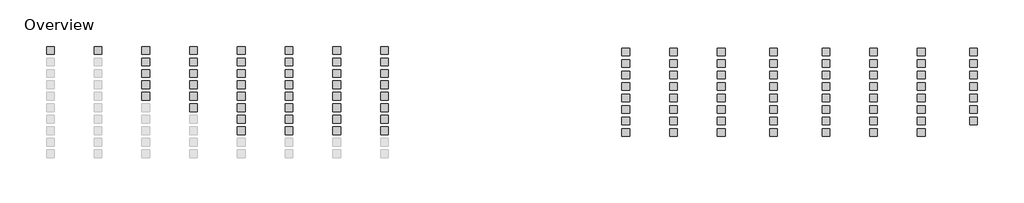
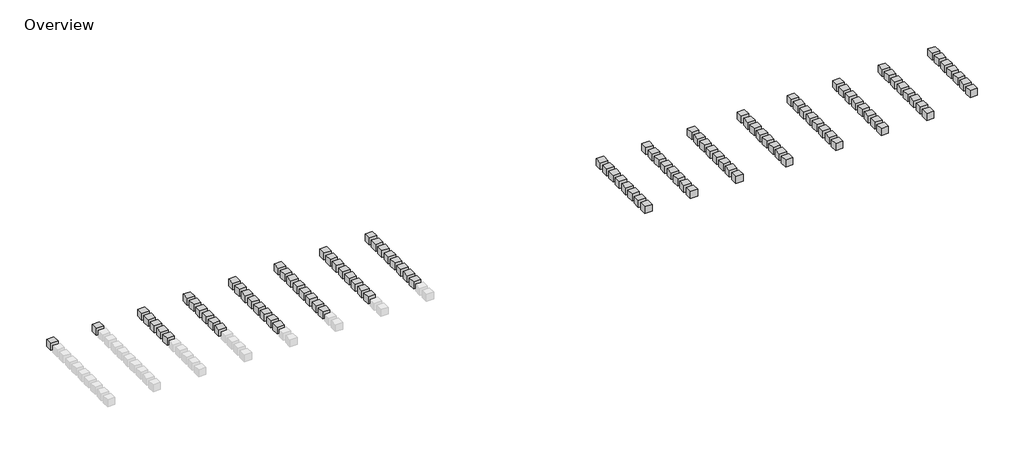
# One storey, part 5 of 5: 108 proxies.
"""IFC4 building model written with IfcOpenShell, lengths in millimetres."""

from ifc_helpers import new_model, si_unit, origin, place, context, project, spatial, transform, mapped, element, save
from components import material_box_material_box_61bd0c43

model = new_model("IFC4")

# Units and contexts
model_context = context("Model", 3, world=origin())
ifc_project = project(units=[si_unit("LENGTHUNIT", "METRE", prefix="MILLI")], contexts=[model_context])

# Site, building, storey
site = spatial("IfcSite", under=ifc_project)
building = spatial("IfcBuilding", under=site)
storey = spatial("IfcBuildingStorey", under=building, Name="Overview", Elevation=0.0)

# Proxies
placement = place(None, origin())
material_box_material_box_shape = material_box_material_box_61bd0c43(model_context)
element("IfcBuildingElementProxy", 1, Name="Material Box : Material Box", ObjectType="Material Box : Material Box", at=placement, inside=storey, context=model_context, shape_type="MappedRepresentation", body=[
    mapped(material_box_material_box_shape, transform((42676.0828924, 8962.6360947, 0.0), x_axis=(1.0, 0.0, 0.0), y_axis=(0.0, 1.0, 0.0), z_axis=(0.0, 0.0, 1.0))),
])
element("IfcBuildingElementProxy", 2, Name="Material Box : Material Box", ObjectType="Material Box : Material Box", at=placement, inside=storey, context=model_context, shape_type="MappedRepresentation", body=[
    mapped(material_box_material_box_shape, transform((42676.0828924, 7819.6360947, 0.0), x_axis=(1.0, 0.0, 0.0), y_axis=(0.0, 1.0, 0.0), z_axis=(0.0, 0.0, 1.0))),
])
element("IfcBuildingElementProxy", 3, Name="Material Box : Material Box", ObjectType="Material Box : Material Box", at=placement, inside=storey, context=model_context, shape_type="MappedRepresentation", body=[
    mapped(material_box_material_box_shape, transform((42676.0828924, 6676.6360947, 0.0), x_axis=(1.0, 0.0, 0.0), y_axis=(0.0, 1.0, 0.0), z_axis=(0.0, 0.0, 1.0))),
])
element("IfcBuildingElementProxy", 4, Name="Material Box : Material Box", ObjectType="Material Box : Material Box", at=placement, inside=storey, context=model_context, shape_type="MappedRepresentation", body=[
    mapped(material_box_material_box_shape, transform((42676.0828924, 5533.6360947, 0.0), x_axis=(1.0, 0.0, 0.0), y_axis=(0.0, 1.0, 0.0), z_axis=(0.0, 0.0, 1.0))),
])
element("IfcBuildingElementProxy", 5, Name="Material Box : Material Box", ObjectType="Material Box : Material Box", at=placement, inside=storey, context=model_context, shape_type="MappedRepresentation", body=[
    mapped(material_box_material_box_shape, transform((47425.8828924, 8962.6360947, 0.0), x_axis=(1.0, 0.0, 0.0), y_axis=(0.0, 1.0, 0.0), z_axis=(0.0, 0.0, 1.0))),
])
element("IfcBuildingElementProxy", 6, Name="Material Box : Material Box", ObjectType="Material Box : Material Box", at=placement, inside=storey, context=model_context, shape_type="MappedRepresentation", body=[
    mapped(material_box_material_box_shape, transform((47425.8828924, 7819.6360947, 0.0), x_axis=(1.0, 0.0, 0.0), y_axis=(0.0, 1.0, 0.0), z_axis=(0.0, 0.0, 1.0))),
])
element("IfcBuildingElementProxy", 7, Name="Material Box : Material Box", ObjectType="Material Box : Material Box", at=placement, inside=storey, context=model_context, shape_type="MappedRepresentation", body=[
    mapped(material_box_material_box_shape, transform((47425.8828924, 6676.6360947, 0.0), x_axis=(1.0, 0.0, 0.0), y_axis=(0.0, 1.0, 0.0), z_axis=(0.0, 0.0, 1.0))),
])
element("IfcBuildingElementProxy", 8, Name="Material Box : Material Box", ObjectType="Material Box : Material Box", at=placement, inside=storey, context=model_context, shape_type="MappedRepresentation", body=[
    mapped(material_box_material_box_shape, transform((47425.8828924, 5533.6360947, 0.0), x_axis=(1.0, 0.0, 0.0), y_axis=(0.0, 1.0, 0.0), z_axis=(0.0, 0.0, 1.0))),
])
element("IfcBuildingElementProxy", 9, Name="Material Box : Material Box", ObjectType="Material Box : Material Box", at=placement, inside=storey, context=model_context, shape_type="MappedRepresentation", body=[
    mapped(material_box_material_box_shape, transform((42676.0828924, 4390.6360947, 0.0), x_axis=(1.0, 0.0, 0.0), y_axis=(0.0, 1.0, 0.0), z_axis=(0.0, 0.0, 1.0))),
])
element("IfcBuildingElementProxy", 10, Name="Material Box : Material Box", ObjectType="Material Box : Material Box", at=placement, inside=storey, context=model_context, shape_type="MappedRepresentation", body=[
    mapped(material_box_material_box_shape, transform((-14601.1030029, 9124.2048122, 0.0), x_axis=(1.0, 0.0, 0.0), y_axis=(0.0, 1.0, 0.0), z_axis=(0.0, 0.0, 1.0))),
])
element("IfcBuildingElementProxy", 11, Name="Material Box : Material Box", ObjectType="Material Box : Material Box", at=placement, inside=storey, context=model_context, shape_type="MappedRepresentation", body=[
    mapped(material_box_material_box_shape, transform((-9851.3030029, 9124.2048122, 0.0), x_axis=(1.0, 0.0, 0.0), y_axis=(0.0, 1.0, 0.0), z_axis=(0.0, 0.0, 1.0))),
])
element("IfcBuildingElementProxy", 12, Name="Material Box : Material Box", ObjectType="Material Box : Material Box", at=placement, inside=storey, context=model_context, shape_type="MappedRepresentation", body=[
    mapped(material_box_material_box_shape, transform((-5101.5030029, 9124.2048122, 0.0), x_axis=(1.0, 0.0, 0.0), y_axis=(0.0, 1.0, 0.0), z_axis=(0.0, 0.0, 1.0))),
])
element("IfcBuildingElementProxy", 13, Name="Material Box : Material Box", ObjectType="Material Box : Material Box", at=placement, inside=storey, context=model_context, shape_type="MappedRepresentation", body=[
    mapped(material_box_material_box_shape, transform((-5101.5030029, 7981.2048122, 0.0), x_axis=(1.0, 0.0, 0.0), y_axis=(0.0, 1.0, 0.0), z_axis=(0.0, 0.0, 1.0))),
])
element("IfcBuildingElementProxy", 14, Name="Material Box : Material Box", ObjectType="Material Box : Material Box", at=placement, inside=storey, context=model_context, shape_type="MappedRepresentation", body=[
    mapped(material_box_material_box_shape, transform((-5101.5030029, 6838.2048122, 0.0), x_axis=(1.0, 0.0, 0.0), y_axis=(0.0, 1.0, 0.0), z_axis=(0.0, 0.0, 1.0))),
])
element("IfcBuildingElementProxy", 15, Name="Material Box : Material Box", ObjectType="Material Box : Material Box", at=placement, inside=storey, context=model_context, shape_type="MappedRepresentation", body=[
    mapped(material_box_material_box_shape, transform((-5101.5030029, 5695.2048122, 0.0), x_axis=(1.0, 0.0, 0.0), y_axis=(0.0, 1.0, 0.0), z_axis=(0.0, 0.0, 1.0))),
])
element("IfcBuildingElementProxy", 16, Name="Material Box : Material Box", ObjectType="Material Box : Material Box", at=placement, inside=storey, context=model_context, shape_type="MappedRepresentation", body=[
    mapped(material_box_material_box_shape, transform((-5101.5030029, 4552.2048122, 0.0), x_axis=(1.0, 0.0, 0.0), y_axis=(0.0, 1.0, 0.0), z_axis=(0.0, 0.0, 1.0))),
])
element("IfcBuildingElementProxy", 17, Name="Material Box : Material Box", ObjectType="Material Box : Material Box", at=placement, inside=storey, context=model_context, shape_type="MappedRepresentation", body=[
    mapped(material_box_material_box_shape, transform((-351.7030029, 3409.2048122, 0.0), x_axis=(1.0, 0.0, 0.0), y_axis=(0.0, 1.0, 0.0), z_axis=(0.0, 0.0, 1.0))),
])
element("IfcBuildingElementProxy", 18, Name="Material Box : Material Box", ObjectType="Material Box : Material Box", at=placement, inside=storey, context=model_context, shape_type="MappedRepresentation", body=[
    mapped(material_box_material_box_shape, transform((-351.7030029, 9124.2048122, 0.0), x_axis=(1.0, 0.0, 0.0), y_axis=(0.0, 1.0, 0.0), z_axis=(0.0, 0.0, 1.0))),
])
element("IfcBuildingElementProxy", 19, Name="Material Box : Material Box", ObjectType="Material Box : Material Box", at=placement, inside=storey, context=model_context, shape_type="MappedRepresentation", body=[
    mapped(material_box_material_box_shape, transform((-351.7030029, 7981.2048122, 0.0), x_axis=(1.0, 0.0, 0.0), y_axis=(0.0, 1.0, 0.0), z_axis=(0.0, 0.0, 1.0))),
])
element("IfcBuildingElementProxy", 20, Name="Material Box : Material Box", ObjectType="Material Box : Material Box", at=placement, inside=storey, context=model_context, shape_type="MappedRepresentation", body=[
    mapped(material_box_material_box_shape, transform((-351.7030029, 6838.2048122, 0.0), x_axis=(1.0, 0.0, 0.0), y_axis=(0.0, 1.0, 0.0), z_axis=(0.0, 0.0, 1.0))),
])
element("IfcBuildingElementProxy", 21, Name="Material Box : Material Box", ObjectType="Material Box : Material Box", at=placement, inside=storey, context=model_context, shape_type="MappedRepresentation", body=[
    mapped(material_box_material_box_shape, transform((-351.7030029, 5695.2048122, 0.0), x_axis=(1.0, 0.0, 0.0), y_axis=(0.0, 1.0, 0.0), z_axis=(0.0, 0.0, 1.0))),
])
element("IfcBuildingElementProxy", 22, Name="Material Box : Material Box", ObjectType="Material Box : Material Box", at=placement, inside=storey, context=model_context, shape_type="MappedRepresentation", body=[
    mapped(material_box_material_box_shape, transform((-351.7030029, 4552.2048122, 0.0), x_axis=(1.0, 0.0, 0.0), y_axis=(0.0, 1.0, 0.0), z_axis=(0.0, 0.0, 1.0))),
])
element("IfcBuildingElementProxy", 23, Name="Material Box : Material Box", ObjectType="Material Box : Material Box", at=placement, inside=storey, context=model_context, shape_type="MappedRepresentation", body=[
    mapped(material_box_material_box_shape, transform((4398.0969971, 9124.2048122, 0.0), x_axis=(1.0, 0.0, 0.0), y_axis=(0.0, 1.0, 0.0), z_axis=(0.0, 0.0, 1.0))),
])
element("IfcBuildingElementProxy", 24, Name="Material Box : Material Box", ObjectType="Material Box : Material Box", at=placement, inside=storey, context=model_context, shape_type="MappedRepresentation", body=[
    mapped(material_box_material_box_shape, transform((4398.0969971, 7981.2048122, 0.0), x_axis=(1.0, 0.0, 0.0), y_axis=(0.0, 1.0, 0.0), z_axis=(0.0, 0.0, 1.0))),
])
element("IfcBuildingElementProxy", 25, Name="Material Box : Material Box", ObjectType="Material Box : Material Box", at=placement, inside=storey, context=model_context, shape_type="MappedRepresentation", body=[
    mapped(material_box_material_box_shape, transform((4398.0969971, 6838.2048122, 0.0), x_axis=(1.0, 0.0, 0.0), y_axis=(0.0, 1.0, 0.0), z_axis=(0.0, 0.0, 1.0))),
])
element("IfcBuildingElementProxy", 26, Name="Material Box : Material Box", ObjectType="Material Box : Material Box", at=placement, inside=storey, context=model_context, shape_type="MappedRepresentation", body=[
    mapped(material_box_material_box_shape, transform((4398.0969971, 5695.2048122, 0.0), x_axis=(1.0, 0.0, 0.0), y_axis=(0.0, 1.0, 0.0), z_axis=(0.0, 0.0, 1.0))),
])
element("IfcBuildingElementProxy", 27, Name="Material Box : Material Box", ObjectType="Material Box : Material Box", at=placement, inside=storey, context=model_context, shape_type="MappedRepresentation", body=[
    mapped(material_box_material_box_shape, transform((4398.0969971, 4552.2048122, 0.0), x_axis=(1.0, 0.0, 0.0), y_axis=(0.0, 1.0, 0.0), z_axis=(0.0, 0.0, 1.0))),
])
element("IfcBuildingElementProxy", 28, Name="Material Box : Material Box", ObjectType="Material Box : Material Box", at=placement, inside=storey, context=model_context, shape_type="MappedRepresentation", body=[
    mapped(material_box_material_box_shape, transform((4398.0969971, 3409.2048122, 0.0), x_axis=(1.0, 0.0, 0.0), y_axis=(0.0, 1.0, 0.0), z_axis=(0.0, 0.0, 1.0))),
])
element("IfcBuildingElementProxy", 29, Name="Material Box : Material Box", ObjectType="Material Box : Material Box", at=placement, inside=storey, context=model_context, shape_type="MappedRepresentation", body=[
    mapped(material_box_material_box_shape, transform((4398.0969971, 2266.2048122, 0.0), x_axis=(1.0, 0.0, 0.0), y_axis=(0.0, 1.0, 0.0), z_axis=(0.0, 0.0, 1.0))),
])
element("IfcBuildingElementProxy", 30, Name="Material Box : Material Box", ObjectType="Material Box : Material Box", at=placement, inside=storey, context=model_context, shape_type="MappedRepresentation", body=[
    mapped(material_box_material_box_shape, transform((4398.0969971, 1123.2048122, 0.0), x_axis=(1.0, 0.0, 0.0), y_axis=(0.0, 1.0, 0.0), z_axis=(0.0, 0.0, 1.0))),
])
element("IfcBuildingElementProxy", 31, Name="Material Box : Material Box", ObjectType="Material Box : Material Box", at=placement, inside=storey, context=model_context, shape_type="MappedRepresentation", body=[
    mapped(material_box_material_box_shape, transform((9147.8969971, 9124.2048122, 0.0), x_axis=(1.0, 0.0, 0.0), y_axis=(0.0, 1.0, 0.0), z_axis=(0.0, 0.0, 1.0))),
])
element("IfcBuildingElementProxy", 32, Name="Material Box : Material Box", ObjectType="Material Box : Material Box", at=placement, inside=storey, context=model_context, shape_type="MappedRepresentation", body=[
    mapped(material_box_material_box_shape, transform((9147.8969971, 7981.2048122, 0.0), x_axis=(1.0, 0.0, 0.0), y_axis=(0.0, 1.0, 0.0), z_axis=(0.0, 0.0, 1.0))),
])
element("IfcBuildingElementProxy", 33, Name="Material Box : Material Box", ObjectType="Material Box : Material Box", at=placement, inside=storey, context=model_context, shape_type="MappedRepresentation", body=[
    mapped(material_box_material_box_shape, transform((9147.8969971, 6838.2048122, 0.0), x_axis=(1.0, 0.0, 0.0), y_axis=(0.0, 1.0, 0.0), z_axis=(0.0, 0.0, 1.0))),
])
element("IfcBuildingElementProxy", 34, Name="Material Box : Material Box", ObjectType="Material Box : Material Box", at=placement, inside=storey, context=model_context, shape_type="MappedRepresentation", body=[
    mapped(material_box_material_box_shape, transform((9147.8969971, 5695.2048122, 0.0), x_axis=(1.0, 0.0, 0.0), y_axis=(0.0, 1.0, 0.0), z_axis=(0.0, 0.0, 1.0))),
])
element("IfcBuildingElementProxy", 35, Name="Material Box : Material Box", ObjectType="Material Box : Material Box", at=placement, inside=storey, context=model_context, shape_type="MappedRepresentation", body=[
    mapped(material_box_material_box_shape, transform((9147.8969971, 4552.2048122, 0.0), x_axis=(1.0, 0.0, 0.0), y_axis=(0.0, 1.0, 0.0), z_axis=(0.0, 0.0, 1.0))),
])
element("IfcBuildingElementProxy", 36, Name="Material Box : Material Box", ObjectType="Material Box : Material Box", at=placement, inside=storey, context=model_context, shape_type="MappedRepresentation", body=[
    mapped(material_box_material_box_shape, transform((9147.8969971, 3409.2048122, 0.0), x_axis=(1.0, 0.0, 0.0), y_axis=(0.0, 1.0, 0.0), z_axis=(0.0, 0.0, 1.0))),
])
element("IfcBuildingElementProxy", 37, Name="Material Box : Material Box", ObjectType="Material Box : Material Box", at=placement, inside=storey, context=model_context, shape_type="MappedRepresentation", body=[
    mapped(material_box_material_box_shape, transform((9147.8969971, 2266.2048122, 0.0), x_axis=(1.0, 0.0, 0.0), y_axis=(0.0, 1.0, 0.0), z_axis=(0.0, 0.0, 1.0))),
])
element("IfcBuildingElementProxy", 38, Name="Material Box : Material Box", ObjectType="Material Box : Material Box", at=placement, inside=storey, context=model_context, shape_type="MappedRepresentation", body=[
    mapped(material_box_material_box_shape, transform((9147.8969971, 1123.2048122, 0.0), x_axis=(1.0, 0.0, 0.0), y_axis=(0.0, 1.0, 0.0), z_axis=(0.0, 0.0, 1.0))),
])
element("IfcBuildingElementProxy", 39, Name="Material Box : Material Box", ObjectType="Material Box : Material Box", at=placement, inside=storey, context=model_context, shape_type="MappedRepresentation", body=[
    mapped(material_box_material_box_shape, transform((13897.6969971, 9124.2048122, 0.0), x_axis=(1.0, 0.0, 0.0), y_axis=(0.0, 1.0, 0.0), z_axis=(0.0, 0.0, 1.0))),
])
element("IfcBuildingElementProxy", 40, Name="Material Box : Material Box", ObjectType="Material Box : Material Box", at=placement, inside=storey, context=model_context, shape_type="MappedRepresentation", body=[
    mapped(material_box_material_box_shape, transform((13897.6969971, 7981.2048122, 0.0), x_axis=(1.0, 0.0, 0.0), y_axis=(0.0, 1.0, 0.0), z_axis=(0.0, 0.0, 1.0))),
])
element("IfcBuildingElementProxy", 41, Name="Material Box : Material Box", ObjectType="Material Box : Material Box", at=placement, inside=storey, context=model_context, shape_type="MappedRepresentation", body=[
    mapped(material_box_material_box_shape, transform((13897.6969971, 6838.2048122, 0.0), x_axis=(1.0, 0.0, 0.0), y_axis=(0.0, 1.0, 0.0), z_axis=(0.0, 0.0, 1.0))),
])
element("IfcBuildingElementProxy", 42, Name="Material Box : Material Box", ObjectType="Material Box : Material Box", at=placement, inside=storey, context=model_context, shape_type="MappedRepresentation", body=[
    mapped(material_box_material_box_shape, transform((13897.6969971, 5695.2048122, 0.0), x_axis=(1.0, 0.0, 0.0), y_axis=(0.0, 1.0, 0.0), z_axis=(0.0, 0.0, 1.0))),
])
element("IfcBuildingElementProxy", 43, Name="Material Box : Material Box", ObjectType="Material Box : Material Box", at=placement, inside=storey, context=model_context, shape_type="MappedRepresentation", body=[
    mapped(material_box_material_box_shape, transform((13897.6969971, 4552.2048122, 0.0), x_axis=(1.0, 0.0, 0.0), y_axis=(0.0, 1.0, 0.0), z_axis=(0.0, 0.0, 1.0))),
])
element("IfcBuildingElementProxy", 44, Name="Material Box : Material Box", ObjectType="Material Box : Material Box", at=placement, inside=storey, context=model_context, shape_type="MappedRepresentation", body=[
    mapped(material_box_material_box_shape, transform((13897.6969971, 3409.2048122, 0.0), x_axis=(1.0, 0.0, 0.0), y_axis=(0.0, 1.0, 0.0), z_axis=(0.0, 0.0, 1.0))),
])
element("IfcBuildingElementProxy", 45, Name="Material Box : Material Box", ObjectType="Material Box : Material Box", at=placement, inside=storey, context=model_context, shape_type="MappedRepresentation", body=[
    mapped(material_box_material_box_shape, transform((13897.6969971, 2266.2048122, 0.0), x_axis=(1.0, 0.0, 0.0), y_axis=(0.0, 1.0, 0.0), z_axis=(0.0, 0.0, 1.0))),
])
element("IfcBuildingElementProxy", 46, Name="Material Box : Material Box", ObjectType="Material Box : Material Box", at=placement, inside=storey, context=model_context, shape_type="MappedRepresentation", body=[
    mapped(material_box_material_box_shape, transform((13897.6969971, 1123.2048122, 0.0), x_axis=(1.0, 0.0, 0.0), y_axis=(0.0, 1.0, 0.0), z_axis=(0.0, 0.0, 1.0))),
])
element("IfcBuildingElementProxy", 47, Name="Material Box : Material Box", ObjectType="Material Box : Material Box", at=placement, inside=storey, context=model_context, shape_type="MappedRepresentation", body=[
    mapped(material_box_material_box_shape, transform((18647.4969971, 7981.2048122, 0.0), x_axis=(1.0, 0.0, 0.0), y_axis=(0.0, 1.0, 0.0), z_axis=(0.0, 0.0, 1.0))),
])
element("IfcBuildingElementProxy", 48, Name="Material Box : Material Box", ObjectType="Material Box : Material Box", at=placement, inside=storey, context=model_context, shape_type="MappedRepresentation", body=[
    mapped(material_box_material_box_shape, transform((18647.4969971, 6838.2048122, 0.0), x_axis=(1.0, 0.0, 0.0), y_axis=(0.0, 1.0, 0.0), z_axis=(0.0, 0.0, 1.0))),
])
element("IfcBuildingElementProxy", 49, Name="Material Box : Material Box", ObjectType="Material Box : Material Box", at=placement, inside=storey, context=model_context, shape_type="MappedRepresentation", body=[
    mapped(material_box_material_box_shape, transform((18647.4969971, 5695.2048122, 0.0), x_axis=(1.0, 0.0, 0.0), y_axis=(0.0, 1.0, 0.0), z_axis=(0.0, 0.0, 1.0))),
])
element("IfcBuildingElementProxy", 50, Name="Material Box : Material Box", ObjectType="Material Box : Material Box", at=placement, inside=storey, context=model_context, shape_type="MappedRepresentation", body=[
    mapped(material_box_material_box_shape, transform((18647.4969971, 4552.2048122, 0.0), x_axis=(1.0, 0.0, 0.0), y_axis=(0.0, 1.0, 0.0), z_axis=(0.0, 0.0, 1.0))),
])
element("IfcBuildingElementProxy", 51, Name="Material Box : Material Box", ObjectType="Material Box : Material Box", at=placement, inside=storey, context=model_context, shape_type="MappedRepresentation", body=[
    mapped(material_box_material_box_shape, transform((18647.4969971, 3409.2048122, 0.0), x_axis=(1.0, 0.0, 0.0), y_axis=(0.0, 1.0, 0.0), z_axis=(0.0, 0.0, 1.0))),
])
element("IfcBuildingElementProxy", 52, Name="Material Box : Material Box", ObjectType="Material Box : Material Box", at=placement, inside=storey, context=model_context, shape_type="MappedRepresentation", body=[
    mapped(material_box_material_box_shape, transform((18647.4969971, 9124.2048122, 0.0), x_axis=(1.0, 0.0, 0.0), y_axis=(0.0, 1.0, 0.0), z_axis=(0.0, 0.0, 1.0))),
])
element("IfcBuildingElementProxy", 53, Name="Material Box : Material Box", ObjectType="Material Box : Material Box", at=placement, inside=storey, context=model_context, shape_type="MappedRepresentation", body=[
    mapped(material_box_material_box_shape, transform((18647.4969971, 2266.2048122, 0.0), x_axis=(1.0, 0.0, 0.0), y_axis=(0.0, 1.0, 0.0), z_axis=(0.0, 0.0, 1.0))),
])
element("IfcBuildingElementProxy", 54, Name="Material Box : Material Box", ObjectType="Material Box : Material Box", at=placement, inside=storey, context=model_context, shape_type="MappedRepresentation", body=[
    mapped(material_box_material_box_shape, transform((18647.4969971, 1123.2048122, 0.0), x_axis=(1.0, 0.0, 0.0), y_axis=(0.0, 1.0, 0.0), z_axis=(0.0, 0.0, 1.0))),
])
element("IfcBuildingElementProxy", 55, Name="Material Box : Material Box", ObjectType="Material Box : Material Box", at=placement, inside=storey, context=model_context, shape_type="MappedRepresentation", body=[
    mapped(material_box_material_box_shape, transform((42676.0828924, 3247.6360947, 0.0), x_axis=(1.0, 0.0, 0.0), y_axis=(0.0, 1.0, 0.0), z_axis=(0.0, 0.0, 1.0))),
])
element("IfcBuildingElementProxy", 56, Name="Material Box : Material Box", ObjectType="Material Box : Material Box", at=placement, inside=storey, context=model_context, shape_type="MappedRepresentation", body=[
    mapped(material_box_material_box_shape, transform((42676.0828924, 2104.6360947, 0.0), x_axis=(1.0, 0.0, 0.0), y_axis=(0.0, 1.0, 0.0), z_axis=(0.0, 0.0, 1.0))),
])
element("IfcBuildingElementProxy", 57, Name="Material Box : Material Box", ObjectType="Material Box : Material Box", at=placement, inside=storey, context=model_context, shape_type="MappedRepresentation", body=[
    mapped(material_box_material_box_shape, transform((42676.0828924, 961.6360947, 0.0), x_axis=(1.0, 0.0, 0.0), y_axis=(0.0, 1.0, 0.0), z_axis=(0.0, 0.0, 1.0))),
])
element("IfcBuildingElementProxy", 58, Name="Material Box : Material Box", ObjectType="Material Box : Material Box", at=placement, inside=storey, context=model_context, shape_type="MappedRepresentation", body=[
    mapped(material_box_material_box_shape, transform((62589.6828924, 8962.6360947, 0.0), x_axis=(1.0, 0.0, 0.0), y_axis=(0.0, 1.0, 0.0), z_axis=(0.0, 0.0, 1.0))),
])
element("IfcBuildingElementProxy", 59, Name="Material Box : Material Box", ObjectType="Material Box : Material Box", at=placement, inside=storey, context=model_context, shape_type="MappedRepresentation", body=[
    mapped(material_box_material_box_shape, transform((62589.6828924, 7819.6360947, 0.0), x_axis=(1.0, 0.0, 0.0), y_axis=(0.0, 1.0, 0.0), z_axis=(0.0, 0.0, 1.0))),
])
element("IfcBuildingElementProxy", 60, Name="Material Box : Material Box", ObjectType="Material Box : Material Box", at=placement, inside=storey, context=model_context, shape_type="MappedRepresentation", body=[
    mapped(material_box_material_box_shape, transform((47425.8828924, 3247.6360947, 0.0), x_axis=(1.0, 0.0, 0.0), y_axis=(0.0, 1.0, 0.0), z_axis=(0.0, 0.0, 1.0))),
])
element("IfcBuildingElementProxy", 61, Name="Material Box : Material Box", ObjectType="Material Box : Material Box", at=placement, inside=storey, context=model_context, shape_type="MappedRepresentation", body=[
    mapped(material_box_material_box_shape, transform((47425.8828924, 2104.6360947, 0.0), x_axis=(1.0, 0.0, 0.0), y_axis=(0.0, 1.0, 0.0), z_axis=(0.0, 0.0, 1.0))),
])
element("IfcBuildingElementProxy", 62, Name="Material Box : Material Box", ObjectType="Material Box : Material Box", at=placement, inside=storey, context=model_context, shape_type="MappedRepresentation", body=[
    mapped(material_box_material_box_shape, transform((47425.8828924, 961.6360947, 0.0), x_axis=(1.0, 0.0, 0.0), y_axis=(0.0, 1.0, 0.0), z_axis=(0.0, 0.0, 1.0))),
])
element("IfcBuildingElementProxy", 63, Name="Material Box : Material Box", ObjectType="Material Box : Material Box", at=placement, inside=storey, context=model_context, shape_type="MappedRepresentation", body=[
    mapped(material_box_material_box_shape, transform((67339.4828924, 8962.6360947, 0.0), x_axis=(1.0, 0.0, 0.0), y_axis=(0.0, 1.0, 0.0), z_axis=(0.0, 0.0, 1.0))),
])
element("IfcBuildingElementProxy", 64, Name="Material Box : Material Box", ObjectType="Material Box : Material Box", at=placement, inside=storey, context=model_context, shape_type="MappedRepresentation", body=[
    mapped(material_box_material_box_shape, transform((67339.4828924, 7819.6360947, 0.0), x_axis=(1.0, 0.0, 0.0), y_axis=(0.0, 1.0, 0.0), z_axis=(0.0, 0.0, 1.0))),
])
element("IfcBuildingElementProxy", 65, Name="Material Box : Material Box", ObjectType="Material Box : Material Box", at=placement, inside=storey, context=model_context, shape_type="MappedRepresentation", body=[
    mapped(material_box_material_box_shape, transform((62589.6828924, 6676.6360947, 0.0), x_axis=(1.0, 0.0, 0.0), y_axis=(0.0, 1.0, 0.0), z_axis=(0.0, 0.0, 1.0))),
])
element("IfcBuildingElementProxy", 66, Name="Material Box : Material Box", ObjectType="Material Box : Material Box", at=placement, inside=storey, context=model_context, shape_type="MappedRepresentation", body=[
    mapped(material_box_material_box_shape, transform((62589.6828924, 5533.6360947, 0.0), x_axis=(1.0, 0.0, 0.0), y_axis=(0.0, 1.0, 0.0), z_axis=(0.0, 0.0, 1.0))),
])
element("IfcBuildingElementProxy", 67, Name="Material Box : Material Box", ObjectType="Material Box : Material Box", at=placement, inside=storey, context=model_context, shape_type="MappedRepresentation", body=[
    mapped(material_box_material_box_shape, transform((62589.6828924, 4390.6360947, 0.0), x_axis=(1.0, 0.0, 0.0), y_axis=(0.0, 1.0, 0.0), z_axis=(0.0, 0.0, 1.0))),
])
element("IfcBuildingElementProxy", 68, Name="Material Box : Material Box", ObjectType="Material Box : Material Box", at=placement, inside=storey, context=model_context, shape_type="MappedRepresentation", body=[
    mapped(material_box_material_box_shape, transform((62589.6828924, 2104.6360947, 0.0), x_axis=(1.0, 0.0, 0.0), y_axis=(0.0, 1.0, 0.0), z_axis=(0.0, 0.0, 1.0))),
])
element("IfcBuildingElementProxy", 69, Name="Material Box : Material Box", ObjectType="Material Box : Material Box", at=placement, inside=storey, context=model_context, shape_type="MappedRepresentation", body=[
    mapped(material_box_material_box_shape, transform((62589.6828924, 3247.6360947, 0.0), x_axis=(1.0, 0.0, 0.0), y_axis=(0.0, 1.0, 0.0), z_axis=(0.0, 0.0, 1.0))),
])
element("IfcBuildingElementProxy", 70, Name="Material Box : Material Box", ObjectType="Material Box : Material Box", at=placement, inside=storey, context=model_context, shape_type="MappedRepresentation", body=[
    mapped(material_box_material_box_shape, transform((67339.4828924, 6676.6360947, 0.0), x_axis=(1.0, 0.0, 0.0), y_axis=(0.0, 1.0, 0.0), z_axis=(0.0, 0.0, 1.0))),
])
element("IfcBuildingElementProxy", 71, Name="Material Box : Material Box", ObjectType="Material Box : Material Box", at=placement, inside=storey, context=model_context, shape_type="MappedRepresentation", body=[
    mapped(material_box_material_box_shape, transform((67339.4828924, 5533.6360947, 0.0), x_axis=(1.0, 0.0, 0.0), y_axis=(0.0, 1.0, 0.0), z_axis=(0.0, 0.0, 1.0))),
])
element("IfcBuildingElementProxy", 72, Name="Material Box : Material Box", ObjectType="Material Box : Material Box", at=placement, inside=storey, context=model_context, shape_type="MappedRepresentation", body=[
    mapped(material_box_material_box_shape, transform((67339.4828924, 4390.6360947, 0.0), x_axis=(1.0, 0.0, 0.0), y_axis=(0.0, 1.0, 0.0), z_axis=(0.0, 0.0, 1.0))),
])
element("IfcBuildingElementProxy", 73, Name="Material Box : Material Box", ObjectType="Material Box : Material Box", at=placement, inside=storey, context=model_context, shape_type="MappedRepresentation", body=[
    mapped(material_box_material_box_shape, transform((67339.4828924, 3247.6360947, 0.0), x_axis=(1.0, 0.0, 0.0), y_axis=(0.0, 1.0, 0.0), z_axis=(0.0, 0.0, 1.0))),
])
element("IfcBuildingElementProxy", 74, Name="Material Box : Material Box", ObjectType="Material Box : Material Box", at=placement, inside=storey, context=model_context, shape_type="MappedRepresentation", body=[
    mapped(material_box_material_box_shape, transform((67339.4828924, 2104.6360947, 0.0), x_axis=(1.0, 0.0, 0.0), y_axis=(0.0, 1.0, 0.0), z_axis=(0.0, 0.0, 1.0))),
])
element("IfcBuildingElementProxy", 75, Name="Material Box : Material Box", ObjectType="Material Box : Material Box", at=placement, inside=storey, context=model_context, shape_type="MappedRepresentation", body=[
    mapped(material_box_material_box_shape, transform((52175.6828924, 8962.6360947, 0.0), x_axis=(1.0, 0.0, 0.0), y_axis=(0.0, 1.0, 0.0), z_axis=(0.0, 0.0, 1.0))),
])
element("IfcBuildingElementProxy", 76, Name="Material Box : Material Box", ObjectType="Material Box : Material Box", at=placement, inside=storey, context=model_context, shape_type="MappedRepresentation", body=[
    mapped(material_box_material_box_shape, transform((52175.6828924, 7819.6360947, 0.0), x_axis=(1.0, 0.0, 0.0), y_axis=(0.0, 1.0, 0.0), z_axis=(0.0, 0.0, 1.0))),
])
element("IfcBuildingElementProxy", 77, Name="Material Box : Material Box", ObjectType="Material Box : Material Box", at=placement, inside=storey, context=model_context, shape_type="MappedRepresentation", body=[
    mapped(material_box_material_box_shape, transform((52175.6828924, 6676.6360947, 0.0), x_axis=(1.0, 0.0, 0.0), y_axis=(0.0, 1.0, 0.0), z_axis=(0.0, 0.0, 1.0))),
])
element("IfcBuildingElementProxy", 78, Name="Material Box : Material Box", ObjectType="Material Box : Material Box", at=placement, inside=storey, context=model_context, shape_type="MappedRepresentation", body=[
    mapped(material_box_material_box_shape, transform((52175.6828924, 5533.6360947, 0.0), x_axis=(1.0, 0.0, 0.0), y_axis=(0.0, 1.0, 0.0), z_axis=(0.0, 0.0, 1.0))),
])
element("IfcBuildingElementProxy", 79, Name="Material Box : Material Box", ObjectType="Material Box : Material Box", at=placement, inside=storey, context=model_context, shape_type="MappedRepresentation", body=[
    mapped(material_box_material_box_shape, transform((52175.6828924, 4390.6360947, 0.0), x_axis=(1.0, 0.0, 0.0), y_axis=(0.0, 1.0, 0.0), z_axis=(0.0, 0.0, 1.0))),
])
element("IfcBuildingElementProxy", 80, Name="Material Box : Material Box", ObjectType="Material Box : Material Box", at=placement, inside=storey, context=model_context, shape_type="MappedRepresentation", body=[
    mapped(material_box_material_box_shape, transform((57382.6828924, 8962.6360947, 0.0), x_axis=(1.0, 0.0, 0.0), y_axis=(0.0, 1.0, 0.0), z_axis=(0.0, 0.0, 1.0))),
])
element("IfcBuildingElementProxy", 81, Name="Material Box : Material Box", ObjectType="Material Box : Material Box", at=placement, inside=storey, context=model_context, shape_type="MappedRepresentation", body=[
    mapped(material_box_material_box_shape, transform((57382.6828924, 7819.6360947, 0.0), x_axis=(1.0, 0.0, 0.0), y_axis=(0.0, 1.0, 0.0), z_axis=(0.0, 0.0, 1.0))),
])
element("IfcBuildingElementProxy", 82, Name="Material Box : Material Box", ObjectType="Material Box : Material Box", at=placement, inside=storey, context=model_context, shape_type="MappedRepresentation", body=[
    mapped(material_box_material_box_shape, transform((57382.6828924, 6676.6360947, 0.0), x_axis=(1.0, 0.0, 0.0), y_axis=(0.0, 1.0, 0.0), z_axis=(0.0, 0.0, 1.0))),
])
element("IfcBuildingElementProxy", 83, Name="Material Box : Material Box", ObjectType="Material Box : Material Box", at=placement, inside=storey, context=model_context, shape_type="MappedRepresentation", body=[
    mapped(material_box_material_box_shape, transform((57382.6828924, 5533.6360947, 0.0), x_axis=(1.0, 0.0, 0.0), y_axis=(0.0, 1.0, 0.0), z_axis=(0.0, 0.0, 1.0))),
])
element("IfcBuildingElementProxy", 84, Name="Material Box : Material Box", ObjectType="Material Box : Material Box", at=placement, inside=storey, context=model_context, shape_type="MappedRepresentation", body=[
    mapped(material_box_material_box_shape, transform((57382.6828924, 4390.6360947, 0.0), x_axis=(1.0, 0.0, 0.0), y_axis=(0.0, 1.0, 0.0), z_axis=(0.0, 0.0, 1.0))),
])
element("IfcBuildingElementProxy", 85, Name="Material Box : Material Box", ObjectType="Material Box : Material Box", at=placement, inside=storey, context=model_context, shape_type="MappedRepresentation", body=[
    mapped(material_box_material_box_shape, transform((52175.6828924, 3247.6360947, 0.0), x_axis=(1.0, 0.0, 0.0), y_axis=(0.0, 1.0, 0.0), z_axis=(0.0, 0.0, 1.0))),
])
element("IfcBuildingElementProxy", 86, Name="Material Box : Material Box", ObjectType="Material Box : Material Box", at=placement, inside=storey, context=model_context, shape_type="MappedRepresentation", body=[
    mapped(material_box_material_box_shape, transform((52175.6828924, 2104.6360947, 0.0), x_axis=(1.0, 0.0, 0.0), y_axis=(0.0, 1.0, 0.0), z_axis=(0.0, 0.0, 1.0))),
])
element("IfcBuildingElementProxy", 87, Name="Material Box : Material Box", ObjectType="Material Box : Material Box", at=placement, inside=storey, context=model_context, shape_type="MappedRepresentation", body=[
    mapped(material_box_material_box_shape, transform((52175.6828924, 961.6360947, 0.0), x_axis=(1.0, 0.0, 0.0), y_axis=(0.0, 1.0, 0.0), z_axis=(0.0, 0.0, 1.0))),
])
element("IfcBuildingElementProxy", 88, Name="Material Box : Material Box", ObjectType="Material Box : Material Box", at=placement, inside=storey, context=model_context, shape_type="MappedRepresentation", body=[
    mapped(material_box_material_box_shape, transform((72089.2828924, 8962.6360947, 0.0), x_axis=(1.0, 0.0, 0.0), y_axis=(0.0, 1.0, 0.0), z_axis=(0.0, 0.0, 1.0))),
])
element("IfcBuildingElementProxy", 89, Name="Material Box : Material Box", ObjectType="Material Box : Material Box", at=placement, inside=storey, context=model_context, shape_type="MappedRepresentation", body=[
    mapped(material_box_material_box_shape, transform((72089.2828924, 7819.6360947, 0.0), x_axis=(1.0, 0.0, 0.0), y_axis=(0.0, 1.0, 0.0), z_axis=(0.0, 0.0, 1.0))),
])
element("IfcBuildingElementProxy", 90, Name="Material Box : Material Box", ObjectType="Material Box : Material Box", at=placement, inside=storey, context=model_context, shape_type="MappedRepresentation", body=[
    mapped(material_box_material_box_shape, transform((47425.8828924, 4390.6360947, 0.0), x_axis=(1.0, 0.0, 0.0), y_axis=(0.0, 1.0, 0.0), z_axis=(0.0, 0.0, 1.0))),
])
element("IfcBuildingElementProxy", 91, Name="Material Box : Material Box", ObjectType="Material Box : Material Box", at=placement, inside=storey, context=model_context, shape_type="MappedRepresentation", body=[
    mapped(material_box_material_box_shape, transform((57382.6828924, 3247.6360947, 0.0), x_axis=(1.0, 0.0, 0.0), y_axis=(0.0, 1.0, 0.0), z_axis=(0.0, 0.0, 1.0))),
])
element("IfcBuildingElementProxy", 92, Name="Material Box : Material Box", ObjectType="Material Box : Material Box", at=placement, inside=storey, context=model_context, shape_type="MappedRepresentation", body=[
    mapped(material_box_material_box_shape, transform((57382.6828924, 2104.6360947, 0.0), x_axis=(1.0, 0.0, 0.0), y_axis=(0.0, 1.0, 0.0), z_axis=(0.0, 0.0, 1.0))),
])
element("IfcBuildingElementProxy", 93, Name="Material Box : Material Box", ObjectType="Material Box : Material Box", at=placement, inside=storey, context=model_context, shape_type="MappedRepresentation", body=[
    mapped(material_box_material_box_shape, transform((57382.6828924, 961.6360947, 0.0), x_axis=(1.0, 0.0, 0.0), y_axis=(0.0, 1.0, 0.0), z_axis=(0.0, 0.0, 1.0))),
])
element("IfcBuildingElementProxy", 94, Name="Material Box : Material Box", ObjectType="Material Box : Material Box", at=placement, inside=storey, context=model_context, shape_type="MappedRepresentation", body=[
    mapped(material_box_material_box_shape, transform((77296.2828924, 8962.6360947, 0.0), x_axis=(1.0, 0.0, 0.0), y_axis=(0.0, 1.0, 0.0), z_axis=(0.0, 0.0, 1.0))),
])
element("IfcBuildingElementProxy", 95, Name="Material Box : Material Box", ObjectType="Material Box : Material Box", at=placement, inside=storey, context=model_context, shape_type="MappedRepresentation", body=[
    mapped(material_box_material_box_shape, transform((77296.2828924, 7819.6360947, 0.0), x_axis=(1.0, 0.0, 0.0), y_axis=(0.0, 1.0, 0.0), z_axis=(0.0, 0.0, 1.0))),
])
element("IfcBuildingElementProxy", 96, Name="Material Box : Material Box", ObjectType="Material Box : Material Box", at=placement, inside=storey, context=model_context, shape_type="MappedRepresentation", body=[
    mapped(material_box_material_box_shape, transform((72089.2828924, 6676.6360947, 0.0), x_axis=(1.0, 0.0, 0.0), y_axis=(0.0, 1.0, 0.0), z_axis=(0.0, 0.0, 1.0))),
])
element("IfcBuildingElementProxy", 97, Name="Material Box : Material Box", ObjectType="Material Box : Material Box", at=placement, inside=storey, context=model_context, shape_type="MappedRepresentation", body=[
    mapped(material_box_material_box_shape, transform((72089.2828924, 5533.6360947, 0.0), x_axis=(1.0, 0.0, 0.0), y_axis=(0.0, 1.0, 0.0), z_axis=(0.0, 0.0, 1.0))),
])
element("IfcBuildingElementProxy", 98, Name="Material Box : Material Box", ObjectType="Material Box : Material Box", at=placement, inside=storey, context=model_context, shape_type="MappedRepresentation", body=[
    mapped(material_box_material_box_shape, transform((72089.2828924, 4390.6360947, 0.0), x_axis=(1.0, 0.0, 0.0), y_axis=(0.0, 1.0, 0.0), z_axis=(0.0, 0.0, 1.0))),
])
element("IfcBuildingElementProxy", 99, Name="Material Box : Material Box", ObjectType="Material Box : Material Box", at=placement, inside=storey, context=model_context, shape_type="MappedRepresentation", body=[
    mapped(material_box_material_box_shape, transform((72089.2828924, 3247.6360947, 0.0), x_axis=(1.0, 0.0, 0.0), y_axis=(0.0, 1.0, 0.0), z_axis=(0.0, 0.0, 1.0))),
])
element("IfcBuildingElementProxy", 100, Name="Material Box : Material Box", ObjectType="Material Box : Material Box", at=placement, inside=storey, context=model_context, shape_type="MappedRepresentation", body=[
    mapped(material_box_material_box_shape, transform((72089.2828924, 2104.6360947, 0.0), x_axis=(1.0, 0.0, 0.0), y_axis=(0.0, 1.0, 0.0), z_axis=(0.0, 0.0, 1.0))),
])
element("IfcBuildingElementProxy", 101, Name="Material Box : Material Box", ObjectType="Material Box : Material Box", at=placement, inside=storey, context=model_context, shape_type="MappedRepresentation", body=[
    mapped(material_box_material_box_shape, transform((62589.6828924, 961.6360947, 0.0), x_axis=(1.0, 0.0, 0.0), y_axis=(0.0, 1.0, 0.0), z_axis=(0.0, 0.0, 1.0))),
])
element("IfcBuildingElementProxy", 102, Name="Material Box : Material Box", ObjectType="Material Box : Material Box", at=placement, inside=storey, context=model_context, shape_type="MappedRepresentation", body=[
    mapped(material_box_material_box_shape, transform((77296.2828924, 5533.6360947, 0.0), x_axis=(1.0, 0.0, 0.0), y_axis=(0.0, 1.0, 0.0), z_axis=(0.0, 0.0, 1.0))),
])
element("IfcBuildingElementProxy", 103, Name="Material Box : Material Box", ObjectType="Material Box : Material Box", at=placement, inside=storey, context=model_context, shape_type="MappedRepresentation", body=[
    mapped(material_box_material_box_shape, transform((77296.2828924, 4390.6360947, 0.0), x_axis=(1.0, 0.0, 0.0), y_axis=(0.0, 1.0, 0.0), z_axis=(0.0, 0.0, 1.0))),
])
element("IfcBuildingElementProxy", 104, Name="Material Box : Material Box", ObjectType="Material Box : Material Box", at=placement, inside=storey, context=model_context, shape_type="MappedRepresentation", body=[
    mapped(material_box_material_box_shape, transform((77296.2828924, 3247.6360947, 0.0), x_axis=(1.0, 0.0, 0.0), y_axis=(0.0, 1.0, 0.0), z_axis=(0.0, 0.0, 1.0))),
])
element("IfcBuildingElementProxy", 105, Name="Material Box : Material Box", ObjectType="Material Box : Material Box", at=placement, inside=storey, context=model_context, shape_type="MappedRepresentation", body=[
    mapped(material_box_material_box_shape, transform((77296.2828924, 2104.6360947, 0.0), x_axis=(1.0, 0.0, 0.0), y_axis=(0.0, 1.0, 0.0), z_axis=(0.0, 0.0, 1.0))),
])
element("IfcBuildingElementProxy", 106, Name="Material Box : Material Box", ObjectType="Material Box : Material Box", at=placement, inside=storey, context=model_context, shape_type="MappedRepresentation", body=[
    mapped(material_box_material_box_shape, transform((67339.4828924, 961.6360947, 0.0), x_axis=(1.0, 0.0, 0.0), y_axis=(0.0, 1.0, 0.0), z_axis=(0.0, 0.0, 1.0))),
])
element("IfcBuildingElementProxy", 107, Name="Material Box : Material Box", ObjectType="Material Box : Material Box", at=placement, inside=storey, context=model_context, shape_type="MappedRepresentation", body=[
    mapped(material_box_material_box_shape, transform((72089.2828924, 961.6360947, 0.0), x_axis=(1.0, 0.0, 0.0), y_axis=(0.0, 1.0, 0.0), z_axis=(0.0, 0.0, 1.0))),
])
element("IfcBuildingElementProxy", 108, Name="Material Box : Material Box", ObjectType="Material Box : Material Box", at=placement, inside=storey, context=model_context, shape_type="MappedRepresentation", body=[
    mapped(material_box_material_box_shape, transform((77296.2828924, 6676.6360947, 0.0), x_axis=(1.0, 0.0, 0.0), y_axis=(0.0, 1.0, 0.0), z_axis=(0.0, 0.0, 1.0))),
])

save(model, "model.ifc")
